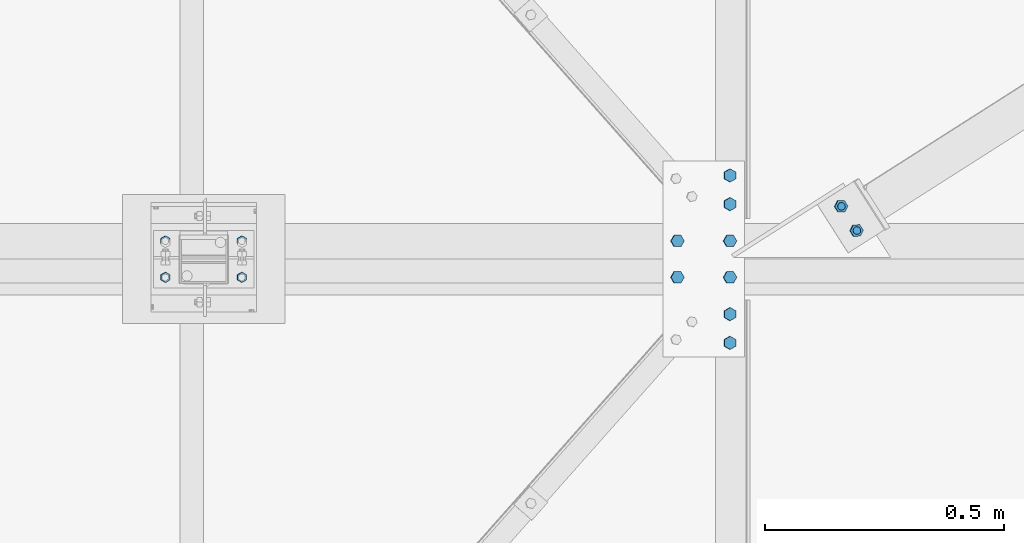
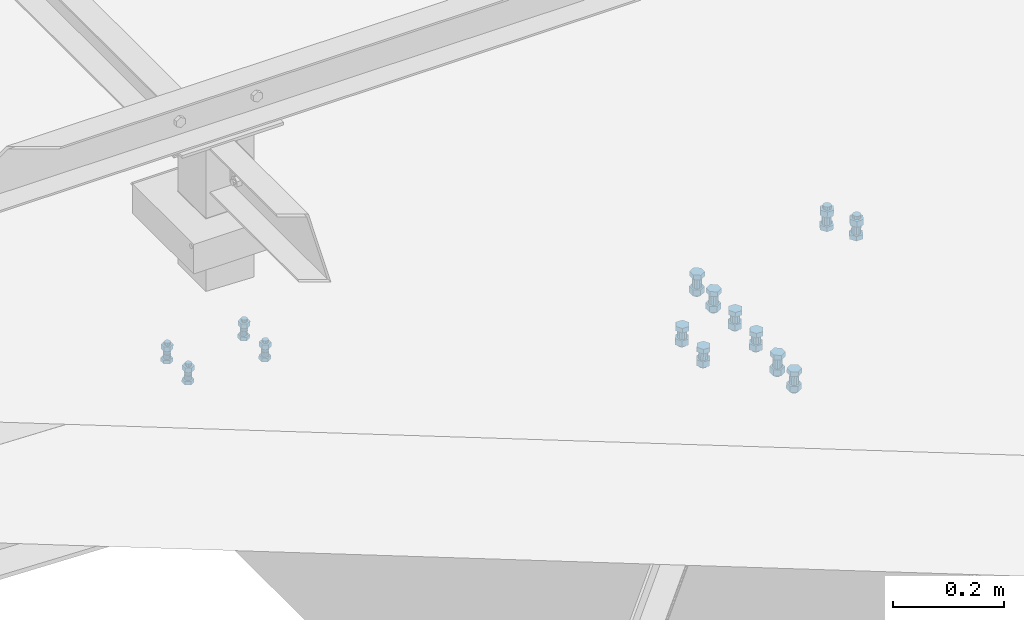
# One storey, part 330 of 3134: 5 mechanical fasteners, 4 elements without a shape of their own.
"""IFC2X3 building model written with IfcOpenShell, lengths in millimetres."""

from ifc_helpers import new_model, si_unit, frame, origin_with_axes, place, context, subcontext, project, spatial, faceted_brep, source, transform, mapped, material, type_object, element, aggregate, save


model = new_model("IFC2X3")

# Units and contexts
model_context = context("Model", 3, precision=1e-05, world=origin_with_axes())
body_context = subcontext(model_context, "Body", "Model", "MODEL_VIEW")
ifc_project = project(units=[si_unit("LENGTHUNIT", "METRE", prefix="MILLI"), si_unit("AREAUNIT", "SQUARE_METRE"), si_unit("VOLUMEUNIT", "CUBIC_METRE"), si_unit("MASSUNIT", "GRAM", prefix="KILO"), si_unit("TIMEUNIT", "SECOND"), si_unit("PLANEANGLEUNIT", "RADIAN"), si_unit("SOLIDANGLEUNIT", "STERADIAN"), si_unit("THERMODYNAMICTEMPERATUREUNIT", "DEGREE_CELSIUS"), si_unit("LUMINOUSINTENSITYUNIT", "LUMEN")], contexts=[model_context])

# Site, building, storey
site_placement = place(None, origin_with_axes())
site = spatial("IfcSite", under=ifc_project, at=site_placement, CompositionType="ELEMENT")
building_placement = place(site_placement, origin_with_axes())
building = spatial("IfcBuilding", under=site, at=building_placement, Name="Undefined", CompositionType="ELEMENT")
storey_placement = place(building_placement, origin_with_axes())
storey = spatial("IfcBuildingStorey", under=building, at=storey_placement, Name="Undefined", CompositionType="ELEMENT", Elevation=0.0)

# Assembly, mechanical fastener
assembly_1_placement = place(storey_placement, origin_with_axes())
assembly_1 = element("IfcElementAssembly", 1, at=assembly_1_placement, inside=storey, Name="300", AssemblyPlace="NOTDEFINED", PredefinedType="RIGID_FRAME")
ifc_material = material(Name="8.8")
mechanical_fastener_type = type_object("IfcMechanicalFastenerType", Name="Bolt assembly")
shared_shape_1 = source(origin_with_axes(), body_context, "Body", "Brep", [
    faceted_brep([(13.856406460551, -23.1999997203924, 0.0), (6.92820323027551, -23.1999997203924, 12.0), (-6.92820323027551, -23.1999997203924, 12.0), (-13.856406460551, -23.1999997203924, 1.69692038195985e-15), (-6.92820323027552, -23.1999997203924, -12.0), (6.9282032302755, -23.1999997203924, -12.0), (6.9282032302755, -13.1999997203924, -12.0), (-6.92820323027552, -13.1999997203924, -12.0), (-13.856406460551, -13.1999997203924, 1.69692038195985e-15), (-6.92820323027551, -13.1999997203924, 12.0), (6.92820323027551, -13.1999997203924, 12.0), (13.856406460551, -13.1999997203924, 0.0), (8.0, -13.1999997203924, 0.0), (6.92820323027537, -13.1999997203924, 4.00000000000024), (3.99999999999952, -13.1999997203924, 6.92820323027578), (-8.29068785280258e-13, -13.1999997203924, 8.0), (-4.00000000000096, -13.1999997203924, 6.92820323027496), (-6.9282032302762, -13.1999997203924, 3.99999999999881), (-8.0, -13.1999997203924, -1.65813757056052e-12), (-6.92820323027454, -13.1999997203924, -4.00000000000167), (-3.99999999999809, -13.1999997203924, -6.92820323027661), (2.47832457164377e-12, -13.1999997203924, -8.0), (4.00000000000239, -13.1999997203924, -6.92820323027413), (6.92820323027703, -13.1999997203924, -3.99999999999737), (6.92820323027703, 21.8000002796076, -3.99999999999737), (4.00000000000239, 21.8000002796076, -6.92820323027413), (2.47832457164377e-12, 21.8000002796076, -8.0), (-3.99999999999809, 21.8000002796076, -6.92820323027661), (-6.92820323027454, 21.8000002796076, -4.00000000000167), (-8.0, 21.8000002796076, -1.65813757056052e-12), (-6.9282032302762, 21.8000002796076, 3.99999999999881), (-4.00000000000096, 21.8000002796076, 6.92820323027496), (-8.29068785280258e-13, 21.8000002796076, 8.0), (3.99999999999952, 21.8000002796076, 6.92820323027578), (6.92820323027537, 21.8000002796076, 4.00000000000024), (8.0, 21.8000002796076, 0.0), (13.856406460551, 3.99999999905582, 0.0), (6.92820323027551, 3.99999999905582, 12.0), (-6.92820323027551, 3.99999999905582, 12.0), (-13.856406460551, 3.99999999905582, 1.69692038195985e-15), (-6.92820323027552, 3.99999999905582, -12.0), (6.9282032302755, 3.99999999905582, -12.0), (6.9282032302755, 16.9999999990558, -12.0), (-6.92820323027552, 16.9999999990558, -12.0), (-13.856406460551, 16.9999999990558, 1.69692038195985e-15), (-6.92820323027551, 16.9999999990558, 12.0), (6.92820323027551, 16.9999999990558, 12.0), (13.856406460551, 16.9999999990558, 0.0)], [[[0, 1, 2, 3, 4, 5]], [[6, 7, 8, 9, 10, 11]], [[0, 11, 10, 1]], [[1, 10, 9, 2]], [[2, 9, 8, 3]], [[3, 8, 7, 4]], [[4, 7, 6, 5]], [[5, 6, 11, 0]], [[12, 13, 14, 15, 16, 17, 18, 19, 20, 21, 22, 23]], [[24, 25, 26, 27, 28, 29, 30, 31, 32, 33, 34, 35]], [[12, 35, 34, 13]], [[13, 34, 33, 14]], [[14, 33, 32, 15]], [[15, 32, 31, 16]], [[16, 31, 30, 17]], [[17, 30, 29, 18]], [[18, 29, 28, 19]], [[19, 28, 27, 20]], [[20, 27, 26, 21]], [[21, 26, 25, 22]], [[22, 25, 24, 23]], [[23, 24, 35, 12]], [[36, 37, 38, 39, 40, 41]], [[42, 43, 44, 45, 46, 47]], [[36, 47, 46, 37]], [[37, 46, 45, 38]], [[38, 45, 44, 39]], [[39, 44, 43, 40]], [[40, 43, 42, 41]], [[41, 42, 47, 36]]]),
    faceted_brep([(9.0, -4.10000000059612, 0.0), (7.79422863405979, -4.10000000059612, 4.50000000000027), (4.49999999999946, -4.10000000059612, 7.79422863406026), (-9.3270238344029e-13, -4.10000000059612, 9.0), (-4.50000000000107, -4.10000000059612, 7.79422863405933), (-7.79422863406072, -4.10000000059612, 4.49999999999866), (-9.0, -4.10000000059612, -1.86540476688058e-12), (-7.79422863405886, -4.10000000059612, -4.50000000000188), (-4.49999999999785, -4.10000000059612, -7.79422863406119), (2.78811514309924e-12, -4.10000000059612, -9.0), (4.50000000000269, -4.10000000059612, -7.7942286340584), (7.79422863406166, -4.10000000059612, -4.49999999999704), (7.79422863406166, 4.00000375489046, -4.49999999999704), (4.50000000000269, 4.00000375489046, -7.7942286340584), (2.78811514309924e-12, 4.00000375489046, -9.0), (-4.49999999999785, 4.00000375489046, -7.79422863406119), (-7.79422863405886, 4.00000375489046, -4.50000000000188), (-9.0, 4.00000375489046, -1.86540476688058e-12), (-7.79422863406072, 4.00000375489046, 4.49999999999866), (-4.50000000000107, 4.00000375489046, 7.79422863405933), (-9.3270238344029e-13, 4.00000375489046, 9.0), (4.49999999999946, 4.00000375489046, 7.79422863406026), (7.79422863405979, 4.00000375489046, 4.50000000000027), (9.0, 4.00000375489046, 0.0), (9.0, -13.0999997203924, 0.0), (7.79422863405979, -13.0999997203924, 4.50000000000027), (4.49999999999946, -13.0999997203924, 7.79422863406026), (-9.3270238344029e-13, -13.0999997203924, 9.0), (-4.50000000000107, -13.0999997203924, 7.79422863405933), (-7.79422863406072, -13.0999997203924, 4.49999999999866), (-9.0, -13.0999997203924, -1.86540476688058e-12), (-7.79422863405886, -13.0999997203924, -4.50000000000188), (-4.49999999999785, -13.0999997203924, -7.79422863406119), (2.78811514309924e-12, -13.0999997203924, -9.0), (4.50000000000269, -13.0999997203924, -7.7942286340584), (7.79422863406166, -13.0999997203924, -4.49999999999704), (7.79422863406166, -3.9, -4.49999999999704), (4.50000000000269, -3.9, -7.7942286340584), (2.78811514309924e-12, -3.9, -9.0), (-4.49999999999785, -3.9, -7.79422863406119), (-7.79422863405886, -3.9, -4.50000000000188), (-9.0, -3.9, -1.86540476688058e-12), (-7.79422863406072, -3.9, 4.49999999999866), (-4.50000000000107, -3.9, 7.79422863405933), (-9.3270238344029e-13, -3.9, 9.0), (4.49999999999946, -3.9, 7.79422863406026), (7.79422863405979, -3.9, 4.50000000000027), (9.0, -3.9, 0.0)], [[[0, 1, 2, 3, 4, 5, 6, 7, 8, 9, 10, 11]], [[12, 13, 14, 15, 16, 17, 18, 19, 20, 21, 22, 23]], [[0, 23, 22, 1]], [[1, 22, 21, 2]], [[2, 21, 20, 3]], [[3, 20, 19, 4]], [[4, 19, 18, 5]], [[5, 18, 17, 6]], [[6, 17, 16, 7]], [[7, 16, 15, 8]], [[8, 15, 14, 9]], [[9, 14, 13, 10]], [[10, 13, 12, 11]], [[11, 12, 23, 0]], [[24, 25, 26, 27, 28, 29, 30, 31, 32, 33, 34, 35]], [[36, 37, 38, 39, 40, 41, 42, 43, 44, 45, 46, 47]], [[24, 47, 46, 25]], [[25, 46, 45, 26]], [[26, 45, 44, 27]], [[27, 44, 43, 28]], [[28, 43, 42, 29]], [[29, 42, 41, 30]], [[30, 41, 40, 31]], [[31, 40, 39, 32]], [[32, 39, 38, 33]], [[33, 38, 37, 34]], [[34, 37, 36, 35]], [[35, 36, 47, 24]]]),
])
mechanical_fastener_1_placement = place(assembly_1_placement, frame((71700.0552172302, 10009.9999999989, 5010.20374992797), z_axis=(0.0, -1.0, 0.0), x_axis=(-0.999519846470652, 0.0, 0.0309851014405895)))
mechanical_fastener_1 = element("IfcMechanicalFastener", 2, at=mechanical_fastener_1_placement, type_object=mechanical_fastener_type, material=ifc_material, Name="Bolt assembly", NominalDiameter=16.0, NominalLength=35.0, context=body_context, shape_type="MappedRepresentation", body=[
    mapped(shared_shape_1, transform((0.0, 0.0, -38.0))),
    mapped(shared_shape_1, transform((110.000000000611, 4.58385329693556e-10, -38.0))),
    mapped(shared_shape_1, transform((0.0, 0.0, 38.0))),
    mapped(shared_shape_1, transform((110.000000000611, 4.58385329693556e-10, 38.0))),
])

assembly_2_placement = place(storey_placement, origin_with_axes())
assembly_2 = element("IfcElementAssembly", 3, at=assembly_2_placement, inside=storey, AssemblyPlace="NOTDEFINED", PredefinedType="RIGID_FRAME")
shared_shape_2 = source(origin_with_axes(), body_context, "Body", "Brep", [
    faceted_brep([(13.856406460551, -15.0000144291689, 0.0), (6.92820323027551, -15.0000144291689, 12.0), (-6.92820323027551, -15.0000144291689, 12.0), (-13.856406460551, -15.0000144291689, 1.69692038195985e-15), (-6.92820323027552, -15.0000144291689, -12.0), (6.9282032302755, -15.0000144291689, -12.0), (6.9282032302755, -5.00001442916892, -12.0), (-6.92820323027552, -5.00001442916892, -12.0), (-13.856406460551, -5.00001442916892, 1.69692038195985e-15), (-6.92820323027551, -5.00001442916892, 12.0), (6.92820323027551, -5.00001442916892, 12.0), (13.856406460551, -5.00001442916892, 0.0), (8.0, -5.00001442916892, 0.0), (6.92820323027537, -5.00001442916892, 4.00000000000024), (3.99999999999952, -5.00001442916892, 6.92820323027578), (-8.29068785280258e-13, -5.00001442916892, 8.0), (-4.00000000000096, -5.00001442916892, 6.92820323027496), (-6.9282032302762, -5.00001442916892, 3.99999999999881), (-8.0, -5.00001442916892, -1.65813757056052e-12), (-6.92820323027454, -5.00001442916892, -4.00000000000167), (-3.99999999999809, -5.00001442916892, -6.92820323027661), (2.47832457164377e-12, -5.00001442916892, -8.0), (4.00000000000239, -5.00001442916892, -6.92820323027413), (6.92820323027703, -5.00001442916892, -3.99999999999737), (6.92820323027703, 35.0000000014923, -3.99999999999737), (4.00000000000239, 35.0000000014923, -6.92820323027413), (2.47832457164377e-12, 35.0000000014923, -8.0), (-3.99999999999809, 35.0000000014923, -6.92820323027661), (-6.92820323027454, 35.0000000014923, -4.00000000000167), (-8.0, 35.0000000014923, -1.65813757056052e-12), (-6.9282032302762, 35.0000000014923, 3.99999999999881), (-4.00000000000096, 35.0000000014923, 6.92820323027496), (-8.29068785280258e-13, 35.0000000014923, 8.0), (3.99999999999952, 35.0000000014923, 6.92820323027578), (6.92820323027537, 35.0000000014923, 4.00000000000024), (8.0, 35.0000000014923, 0.0), (13.856406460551, 14.9999995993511, 0.0), (6.92820323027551, 14.9999995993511, 12.0), (-6.92820323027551, 14.9999995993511, 12.0), (-13.856406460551, 14.9999995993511, 1.69692038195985e-15), (-6.92820323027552, 14.9999995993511, -12.0), (6.9282032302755, 14.9999995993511, -12.0), (6.9282032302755, 27.9999995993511, -12.0), (-6.92820323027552, 27.9999995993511, -12.0), (-13.856406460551, 27.9999995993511, 1.69692038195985e-15), (-6.92820323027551, 27.9999995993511, 12.0), (6.92820323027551, 27.9999995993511, 12.0), (13.856406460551, 27.9999995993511, 0.0)], [[[0, 1, 2, 3, 4, 5]], [[6, 7, 8, 9, 10, 11]], [[0, 11, 10, 1]], [[1, 10, 9, 2]], [[2, 9, 8, 3]], [[3, 8, 7, 4]], [[4, 7, 6, 5]], [[5, 6, 11, 0]], [[12, 13, 14, 15, 16, 17, 18, 19, 20, 21, 22, 23]], [[24, 25, 26, 27, 28, 29, 30, 31, 32, 33, 34, 35]], [[12, 35, 34, 13]], [[13, 34, 33, 14]], [[14, 33, 32, 15]], [[15, 32, 31, 16]], [[16, 31, 30, 17]], [[17, 30, 29, 18]], [[18, 29, 28, 19]], [[19, 28, 27, 20]], [[20, 27, 26, 21]], [[21, 26, 25, 22]], [[22, 25, 24, 23]], [[23, 24, 35, 12]], [[36, 37, 38, 39, 40, 41]], [[42, 43, 44, 45, 46, 47]], [[36, 47, 46, 37]], [[37, 46, 45, 38]], [[38, 45, 44, 39]], [[39, 44, 43, 40]], [[40, 43, 42, 41]], [[41, 42, 47, 36]]]),
    faceted_brep([(9.0, -4.90001442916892, 0.0), (7.79422863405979, -4.90001442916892, 4.50000000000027), (4.49999999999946, -4.90001442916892, 7.79422863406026), (-9.3270238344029e-13, -4.90001442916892, 9.0), (-4.50000000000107, -4.90001442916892, 7.79422863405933), (-7.79422863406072, -4.90001442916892, 4.49999999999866), (-9.0, -4.90001442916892, -1.86540476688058e-12), (-7.79422863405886, -4.90001442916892, -4.50000000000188), (-4.49999999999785, -4.90001442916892, -7.79422863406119), (2.78811514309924e-12, -4.90001442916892, -9.0), (4.50000000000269, -4.90001442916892, -7.7942286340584), (7.79422863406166, -4.90001442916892, -4.49999999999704), (7.79422863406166, 5.10000199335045, -4.49999999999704), (4.50000000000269, 5.10000199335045, -7.7942286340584), (2.78811514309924e-12, 5.10000199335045, -9.0), (-4.49999999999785, 5.10000199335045, -7.79422863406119), (-7.79422863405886, 5.10000199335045, -4.50000000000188), (-9.0, 5.10000199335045, -1.86540476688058e-12), (-7.79422863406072, 5.10000199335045, 4.49999999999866), (-4.50000000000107, 5.10000199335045, 7.79422863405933), (-9.3270238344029e-13, 5.10000199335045, 9.0), (4.49999999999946, 5.10000199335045, 7.79422863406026), (7.79422863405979, 5.10000199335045, 4.50000000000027), (9.0, 5.10000199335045, 0.0), (9.0, 4.90000583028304, 0.0), (7.79422863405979, 4.90000583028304, 4.50000000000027), (4.49999999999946, 4.90000583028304, 7.79422863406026), (-9.3270238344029e-13, 4.90000583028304, 9.0), (-4.50000000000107, 4.90000583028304, 7.79422863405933), (-7.79422863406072, 4.90000583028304, 4.49999999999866), (-9.0, 4.90000583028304, -1.86540476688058e-12), (-7.79422863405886, 4.90000583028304, -4.50000000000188), (-4.49999999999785, 4.90000583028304, -7.79422863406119), (2.78811514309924e-12, 4.90000583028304, -9.0), (4.50000000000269, 4.90000583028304, -7.7942286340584), (7.79422863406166, 4.90000583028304, -4.49999999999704), (7.79422863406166, 14.9999995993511, -4.49999999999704), (4.50000000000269, 14.9999995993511, -7.7942286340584), (2.78811514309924e-12, 14.9999995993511, -9.0), (-4.49999999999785, 14.9999995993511, -7.79422863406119), (-7.79422863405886, 14.9999995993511, -4.50000000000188), (-9.0, 14.9999995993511, -1.86540476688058e-12), (-7.79422863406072, 14.9999995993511, 4.49999999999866), (-4.50000000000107, 14.9999995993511, 7.79422863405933), (-9.3270238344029e-13, 14.9999995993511, 9.0), (4.49999999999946, 14.9999995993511, 7.79422863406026), (7.79422863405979, 14.9999995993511, 4.50000000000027), (9.0, 14.9999995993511, 0.0)], [[[0, 1, 2, 3, 4, 5, 6, 7, 8, 9, 10, 11]], [[12, 13, 14, 15, 16, 17, 18, 19, 20, 21, 22, 23]], [[0, 23, 22, 1]], [[1, 22, 21, 2]], [[2, 21, 20, 3]], [[3, 20, 19, 4]], [[4, 19, 18, 5]], [[5, 18, 17, 6]], [[6, 17, 16, 7]], [[7, 16, 15, 8]], [[8, 15, 14, 9]], [[9, 14, 13, 10]], [[10, 13, 12, 11]], [[11, 12, 23, 0]], [[24, 25, 26, 27, 28, 29, 30, 31, 32, 33, 34, 35]], [[36, 37, 38, 39, 40, 41, 42, 43, 44, 45, 46, 47]], [[24, 47, 46, 25]], [[25, 46, 45, 26]], [[26, 45, 44, 27]], [[27, 44, 43, 28]], [[28, 43, 42, 29]], [[29, 42, 41, 30]], [[30, 41, 40, 31]], [[31, 40, 39, 32]], [[32, 39, 38, 33]], [[33, 38, 37, 34]], [[34, 37, 36, 35]], [[35, 36, 47, 24]]]),
])
mechanical_fastener_2_placement = place(assembly_2_placement, frame((71932.2409908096, 10120.4448838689, 5100.55288787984), z_axis=(-0.843130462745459, -0.537073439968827, 0.0261370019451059), x_axis=(0.536815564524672, -0.84353548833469, -0.0166412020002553)))
mechanical_fastener_2 = element("IfcMechanicalFastener", 4, at=mechanical_fastener_2_placement, type_object=mechanical_fastener_type, material=ifc_material, Name="Bolt assembly", NominalDiameter=16.0, NominalLength=40.0, context=body_context, shape_type="MappedRepresentation", body=[
    mapped(shared_shape_2, transform((0.0, 0.0, 0.0))),
    mapped(shared_shape_2, transform((59.9999999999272, 0.0, 5.40239852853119e-10))),
])
aggregate(assembly_2, [mechanical_fastener_2])

# Mechanical fastener
shared_shape_3 = source(origin_with_axes(), body_context, "Body", "Brep", [
    faceted_brep([(10.9696551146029, -10.1955642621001, 0.0), (5.48482755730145, -10.1955642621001, 9.5), (-5.48482755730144, -10.1955642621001, 9.5), (-10.9696551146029, -10.1955642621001, 1.34339530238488e-15), (-5.48482755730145, -10.1955642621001, -9.5), (5.48482755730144, -10.1955642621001, -9.50000000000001), (5.48482755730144, -2.19556426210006, -9.50000000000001), (-5.48482755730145, -2.19556426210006, -9.5), (-10.9696551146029, -2.19556426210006, 1.34339530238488e-15), (-5.48482755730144, -2.19556426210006, 9.5), (5.48482755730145, -2.19556426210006, 9.5), (10.9696551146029, -2.19556426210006, 0.0), (6.0, -2.19556426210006, 0.0), (5.19615242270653, -2.19556426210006, 3.00000000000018), (2.99999999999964, -2.19556426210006, 5.19615242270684), (-6.21801588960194e-13, -2.19556426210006, 6.0), (-3.00000000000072, -2.19556426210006, 5.19615242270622), (-5.19615242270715, -2.19556426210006, 2.9999999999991), (-6.0, -2.19556426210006, -1.24360317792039e-12), (-5.19615242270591, -2.19556426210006, -3.00000000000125), (-2.99999999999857, -2.19556426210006, -5.19615242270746), (1.85874342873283e-12, -2.19556426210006, -6.0), (3.00000000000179, -2.19556426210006, -5.1961524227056), (5.19615242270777, -2.19556426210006, -2.99999999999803), (5.19615242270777, 32.8044357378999, -2.99999999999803), (3.00000000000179, 32.8044357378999, -5.1961524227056), (1.85874342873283e-12, 32.8044357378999, -6.0), (-2.99999999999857, 32.8044357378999, -5.19615242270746), (-5.19615242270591, 32.8044357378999, -3.00000000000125), (-6.0, 32.8044357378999, -1.24360317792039e-12), (-5.19615242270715, 32.8044357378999, 2.9999999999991), (-3.00000000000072, 32.8044357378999, 5.19615242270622), (-6.21801588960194e-13, 32.8044357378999, 6.0), (2.99999999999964, 32.8044357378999, 5.19615242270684), (5.19615242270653, 32.8044357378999, 3.00000000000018), (6.0, 32.8044357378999, 0.0), (10.9696551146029, 17.0008987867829, 0.0), (5.48482755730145, 17.0008987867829, 9.5), (-5.48482755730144, 17.0008987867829, 9.5), (-10.9696551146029, 17.0008987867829, 1.34339530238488e-15), (-5.48482755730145, 17.0008987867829, -9.5), (5.48482755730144, 17.0008987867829, -9.50000000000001), (5.48482755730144, 27.0008987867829, -9.50000000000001), (-5.48482755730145, 27.0008987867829, -9.5), (-10.9696551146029, 27.0008987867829, 1.34339530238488e-15), (-5.48482755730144, 27.0008987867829, 9.5), (5.48482755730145, 27.0008987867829, 9.5), (10.9696551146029, 27.0008987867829, 0.0)], [[[0, 1, 2, 3, 4, 5]], [[6, 7, 8, 9, 10, 11]], [[0, 11, 10, 1]], [[1, 10, 9, 2]], [[2, 9, 8, 3]], [[3, 8, 7, 4]], [[4, 7, 6, 5]], [[5, 6, 11, 0]], [[12, 13, 14, 15, 16, 17, 18, 19, 20, 21, 22, 23]], [[24, 25, 26, 27, 28, 29, 30, 31, 32, 33, 34, 35]], [[12, 35, 34, 13]], [[13, 34, 33, 14]], [[14, 33, 32, 15]], [[15, 32, 31, 16]], [[16, 31, 30, 17]], [[17, 30, 29, 18]], [[18, 29, 28, 19]], [[19, 28, 27, 20]], [[20, 27, 26, 21]], [[21, 26, 25, 22]], [[22, 25, 24, 23]], [[23, 24, 35, 12]], [[36, 37, 38, 39, 40, 41]], [[42, 43, 44, 45, 46, 47]], [[36, 47, 46, 37]], [[37, 46, 45, 38]], [[38, 45, 44, 39]], [[39, 44, 43, 40]], [[40, 43, 42, 41]], [[41, 42, 47, 36]]]),
    faceted_brep([(7.0, 8.90089878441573, 0.0), (6.06217782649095, 8.90089878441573, 3.50000000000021), (3.49999999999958, 8.90089878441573, 6.06217782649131), (-7.25435187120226e-13, 8.90089878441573, 7.0), (-3.50000000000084, 8.90089878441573, 6.06217782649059), (-6.06217782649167, 8.90089878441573, 3.49999999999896), (-7.0, 8.90089878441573, -1.45087037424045e-12), (-6.06217782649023, 8.90089878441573, -3.50000000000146), (-3.49999999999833, 8.90089878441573, -6.06217782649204), (2.1685340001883e-12, 8.90089878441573, -7.0), (3.50000000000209, 8.90089878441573, -6.06217782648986), (6.0621778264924, 8.90089878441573, -3.4999999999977), (6.0621778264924, 17.0008987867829, -3.4999999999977), (3.50000000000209, 17.0008987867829, -6.06217782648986), (2.1685340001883e-12, 17.0008987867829, -7.0), (-3.49999999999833, 17.0008987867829, -6.06217782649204), (-6.06217782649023, 17.0008987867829, -3.50000000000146), (-7.0, 17.0008987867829, -1.45087037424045e-12), (-6.06217782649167, 17.0008987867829, 3.49999999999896), (-3.50000000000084, 17.0008987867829, 6.06217782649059), (-7.25435187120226e-13, 17.0008987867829, 7.0), (3.49999999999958, 17.0008987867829, 6.06217782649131), (6.06217782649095, 17.0008987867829, 3.50000000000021), (7.0, 17.0008987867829, 0.0), (7.0, -2.09556426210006, 0.0), (6.06217782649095, -2.09556426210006, 3.50000000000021), (3.49999999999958, -2.09556426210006, 6.06217782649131), (-7.25435187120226e-13, -2.09556426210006, 7.0), (-3.50000000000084, -2.09556426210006, 6.06217782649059), (-6.06217782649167, -2.09556426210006, 3.49999999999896), (-7.0, -2.09556426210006, -1.45087037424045e-12), (-6.06217782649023, -2.09556426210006, -3.50000000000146), (-3.49999999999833, -2.09556426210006, -6.06217782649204), (2.1685340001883e-12, -2.09556426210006, -7.0), (3.50000000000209, -2.09556426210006, -6.06217782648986), (6.0621778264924, -2.09556426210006, -3.4999999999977), (6.0621778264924, 7.10443554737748, -3.4999999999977), (3.50000000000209, 7.10443554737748, -6.06217782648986), (2.1685340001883e-12, 7.10443554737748, -7.0), (-3.49999999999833, 7.10443554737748, -6.06217782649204), (-6.06217782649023, 7.10443554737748, -3.50000000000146), (-7.0, 7.10443554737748, -1.45087037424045e-12), (-6.06217782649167, 7.10443554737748, 3.49999999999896), (-3.50000000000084, 7.10443554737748, 6.06217782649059), (-7.25435187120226e-13, 7.10443554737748, 7.0), (3.49999999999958, 7.10443554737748, 6.06217782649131), (6.06217782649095, 7.10443554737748, 3.50000000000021), (7.0, 7.10443554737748, 0.0)], [[[0, 1, 2, 3, 4, 5, 6, 7, 8, 9, 10, 11]], [[12, 13, 14, 15, 16, 17, 18, 19, 20, 21, 22, 23]], [[0, 23, 22, 1]], [[1, 22, 21, 2]], [[2, 21, 20, 3]], [[3, 20, 19, 4]], [[4, 19, 18, 5]], [[5, 18, 17, 6]], [[6, 17, 16, 7]], [[7, 16, 15, 8]], [[8, 15, 14, 9]], [[9, 14, 13, 10]], [[10, 13, 12, 11]], [[11, 12, 23, 0]], [[24, 25, 26, 27, 28, 29, 30, 31, 32, 33, 34, 35]], [[36, 37, 38, 39, 40, 41, 42, 43, 44, 45, 46, 47]], [[24, 47, 46, 25]], [[25, 46, 45, 26]], [[26, 45, 44, 27]], [[27, 44, 43, 28]], [[28, 43, 42, 29]], [[29, 42, 41, 30]], [[30, 41, 40, 31]], [[31, 40, 39, 32]], [[32, 39, 38, 33]], [[33, 38, 37, 34]], [[34, 37, 36, 35]], [[35, 36, 47, 24]]]),
])
mechanical_fastener_3_placement = place(assembly_1_placement, frame((70599.5351187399, 10048.0, 5338.4572055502), z_axis=(-0.99951962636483, 0.0, 0.0309922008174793), x_axis=(0.0, -1.0, 0.0)))
mechanical_fastener_3 = element("IfcMechanicalFastener", 5, at=mechanical_fastener_3_placement, type_object=mechanical_fastener_type, material=ifc_material, Name="Bolt assembly", NominalDiameter=12.0, NominalLength=35.0, context=body_context, shape_type="MappedRepresentation", body=[
    mapped(shared_shape_3, transform((0.0, -5.32963895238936e-10, -79.9999999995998))),
    mapped(shared_shape_3, transform((76.0, -5.32963895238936e-10, -79.9999999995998))),
    mapped(shared_shape_3, transform((0.0, 5.3114490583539e-10, 79.9999999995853))),
    mapped(shared_shape_3, transform((76.0, 5.3114490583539e-10, 79.9999999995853))),
])

aggregate(assembly_1, [mechanical_fastener_3, mechanical_fastener_1])

# Assembly, mechanical fastener
assembly_3_placement = place(storey_placement, origin_with_axes())
assembly_3 = element("IfcElementAssembly", 6, at=assembly_3_placement, inside=storey, AssemblyPlace="NOTDEFINED", PredefinedType="RIGID_FRAME")
shared_shape_4 = source(origin_with_axes(), body_context, "Body", "Brep", [
    faceted_brep([(13.856406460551, -21.0000017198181, 0.0), (6.92820323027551, -21.0000017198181, 12.0), (-6.92820323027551, -21.0000017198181, 12.0), (-13.856406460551, -21.0000017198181, 1.69692038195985e-15), (-6.92820323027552, -21.0000017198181, -12.0), (6.9282032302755, -21.0000017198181, -12.0), (6.9282032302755, -11.0000017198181, -12.0), (-6.92820323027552, -11.0000017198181, -12.0), (-13.856406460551, -11.0000017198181, 1.69692038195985e-15), (-6.92820323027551, -11.0000017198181, 12.0), (6.92820323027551, -11.0000017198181, 12.0), (13.856406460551, -11.0000017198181, 0.0), (8.0, -11.0000017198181, 0.0), (6.92820323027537, -11.0000017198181, 4.00000000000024), (3.99999999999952, -11.0000017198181, 6.92820323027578), (-8.29068785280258e-13, -11.0000017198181, 8.0), (-4.00000000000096, -11.0000017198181, 6.92820323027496), (-6.9282032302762, -11.0000017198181, 3.99999999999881), (-8.0, -11.0000017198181, -1.65813757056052e-12), (-6.92820323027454, -11.0000017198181, -4.00000000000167), (-3.99999999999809, -11.0000017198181, -6.92820323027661), (2.47832457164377e-12, -11.0000017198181, -8.0), (4.00000000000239, -11.0000017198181, -6.92820323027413), (6.92820323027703, -11.0000017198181, -3.99999999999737), (6.92820323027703, 29.0, -3.99999999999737), (4.00000000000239, 29.0, -6.92820323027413), (2.47832457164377e-12, 29.0, -8.0), (-3.99999999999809, 29.0, -6.92820323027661), (-6.92820323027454, 29.0, -4.00000000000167), (-8.0, 29.0, -1.65813757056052e-12), (-6.9282032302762, 29.0, 3.99999999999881), (-4.00000000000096, 29.0, 6.92820323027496), (-8.29068785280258e-13, 29.0, 8.0), (3.99999999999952, 29.0, 6.92820323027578), (6.92820323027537, 29.0, 4.00000000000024), (8.0, 29.0, 0.0), (13.856406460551, 10.9979999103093, 0.0), (6.92820323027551, 10.9979999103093, 12.0), (-6.92820323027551, 10.9979999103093, 12.0), (-13.856406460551, 10.9979999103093, 1.69692038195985e-15), (-6.92820323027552, 10.9979999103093, -12.0), (6.9282032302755, 10.9979999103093, -12.0), (6.9282032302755, 23.9979999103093, -12.0), (-6.92820323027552, 23.9979999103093, -12.0), (-13.856406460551, 23.9979999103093, 1.69692038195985e-15), (-6.92820323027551, 23.9979999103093, 12.0), (6.92820323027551, 23.9979999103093, 12.0), (13.856406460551, 23.9979999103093, 0.0)], [[[0, 1, 2, 3, 4, 5]], [[6, 7, 8, 9, 10, 11]], [[0, 11, 10, 1]], [[1, 10, 9, 2]], [[2, 9, 8, 3]], [[3, 8, 7, 4]], [[4, 7, 6, 5]], [[5, 6, 11, 0]], [[12, 13, 14, 15, 16, 17, 18, 19, 20, 21, 22, 23]], [[24, 25, 26, 27, 28, 29, 30, 31, 32, 33, 34, 35]], [[12, 35, 34, 13]], [[13, 34, 33, 14]], [[14, 33, 32, 15]], [[15, 32, 31, 16]], [[16, 31, 30, 17]], [[17, 30, 29, 18]], [[18, 29, 28, 19]], [[19, 28, 27, 20]], [[20, 27, 26, 21]], [[21, 26, 25, 22]], [[22, 25, 24, 23]], [[23, 24, 35, 12]], [[36, 37, 38, 39, 40, 41]], [[42, 43, 44, 45, 46, 47]], [[36, 47, 46, 37]], [[37, 46, 45, 38]], [[38, 45, 44, 39]], [[39, 44, 43, 40]], [[40, 43, 42, 41]], [[41, 42, 47, 36]]]),
    faceted_brep([(9.0, -10.9000017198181, 0.0), (7.79422863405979, -10.9000017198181, 4.50000000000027), (4.49999999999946, -10.9000017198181, 7.79422863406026), (-9.3270238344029e-13, -10.9000017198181, 9.0), (-4.50000000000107, -10.9000017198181, 7.79422863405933), (-7.79422863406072, -10.9000017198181, 4.49999999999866), (-9.0, -10.9000017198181, -1.86540476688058e-12), (-7.79422863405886, -10.9000017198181, -4.50000000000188), (-4.49999999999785, -10.9000017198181, -7.79422863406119), (2.78811514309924e-12, -10.9000017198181, -9.0), (4.50000000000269, -10.9000017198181, -7.7942286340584), (7.79422863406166, -10.9000017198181, -4.49999999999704), (7.79422863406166, -3.9, -4.49999999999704), (4.50000000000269, -3.9, -7.7942286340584), (2.78811514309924e-12, -3.9, -9.0), (-4.49999999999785, -3.9, -7.79422863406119), (-7.79422863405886, -3.9, -4.50000000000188), (-9.0, -3.9, -1.86540476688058e-12), (-7.79422863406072, -3.9, 4.49999999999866), (-4.50000000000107, -3.9, 7.79422863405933), (-9.3270238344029e-13, -3.9, 9.0), (4.49999999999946, -3.9, 7.79422863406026), (7.79422863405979, -3.9, 4.50000000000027), (9.0, -3.9, 0.0), (9.0, 3.89799991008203, 0.0), (7.79422863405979, 3.89799991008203, 4.50000000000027), (4.49999999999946, 3.89799991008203, 7.79422863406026), (-9.3270238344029e-13, 3.89799991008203, 9.0), (-4.50000000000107, 3.89799991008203, 7.79422863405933), (-7.79422863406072, 3.89799991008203, 4.49999999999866), (-9.0, 3.89799991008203, -1.86540476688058e-12), (-7.79422863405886, 3.89799991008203, -4.50000000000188), (-4.49999999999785, 3.89799991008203, -7.79422863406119), (2.78811514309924e-12, 3.89799991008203, -9.0), (4.50000000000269, 3.89799991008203, -7.7942286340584), (7.79422863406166, 3.89799991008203, -4.49999999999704), (7.79422863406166, 10.9979999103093, -4.49999999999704), (4.50000000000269, 10.9979999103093, -7.7942286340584), (2.78811514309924e-12, 10.9979999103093, -9.0), (-4.49999999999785, 10.9979999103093, -7.79422863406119), (-7.79422863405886, 10.9979999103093, -4.50000000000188), (-9.0, 10.9979999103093, -1.86540476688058e-12), (-7.79422863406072, 10.9979999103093, 4.49999999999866), (-4.50000000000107, 10.9979999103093, 7.79422863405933), (-9.3270238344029e-13, 10.9979999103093, 9.0), (4.49999999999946, 10.9979999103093, 7.79422863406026), (7.79422863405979, 10.9979999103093, 4.50000000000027), (9.0, 10.9979999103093, 0.0), (9.0, -3.99999624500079, 0.0), (7.79422863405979, -3.99999624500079, 4.50000000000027), (4.49999999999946, -3.99999624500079, 7.79422863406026), (-9.3270238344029e-13, -3.99999624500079, 9.0), (-4.50000000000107, -3.99999624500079, 7.79422863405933), (-7.79422863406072, -3.99999624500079, 4.49999999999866), (-9.0, -3.99999624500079, -1.86540476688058e-12), (-7.79422863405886, -3.99999624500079, -4.50000000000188), (-4.49999999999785, -3.99999624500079, -7.79422863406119), (2.78811514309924e-12, -3.99999624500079, -9.0), (4.50000000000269, -3.99999624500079, -7.7942286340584), (7.79422863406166, -3.99999624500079, -4.49999999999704), (7.79422863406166, 4.00000375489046, -4.49999999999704), (4.50000000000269, 4.00000375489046, -7.7942286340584), (2.78811514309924e-12, 4.00000375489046, -9.0), (-4.49999999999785, 4.00000375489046, -7.79422863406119), (-7.79422863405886, 4.00000375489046, -4.50000000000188), (-9.0, 4.00000375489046, -1.86540476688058e-12), (-7.79422863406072, 4.00000375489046, 4.49999999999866), (-4.50000000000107, 4.00000375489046, 7.79422863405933), (-9.3270238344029e-13, 4.00000375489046, 9.0), (4.49999999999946, 4.00000375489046, 7.79422863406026), (7.79422863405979, 4.00000375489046, 4.50000000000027), (9.0, 4.00000375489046, 0.0)], [[[0, 1, 2, 3, 4, 5, 6, 7, 8, 9, 10, 11]], [[12, 13, 14, 15, 16, 17, 18, 19, 20, 21, 22, 23]], [[0, 23, 22, 1]], [[1, 22, 21, 2]], [[2, 21, 20, 3]], [[3, 20, 19, 4]], [[4, 19, 18, 5]], [[5, 18, 17, 6]], [[6, 17, 16, 7]], [[7, 16, 15, 8]], [[8, 15, 14, 9]], [[9, 14, 13, 10]], [[10, 13, 12, 11]], [[11, 12, 23, 0]], [[24, 25, 26, 27, 28, 29, 30, 31, 32, 33, 34, 35]], [[36, 37, 38, 39, 40, 41, 42, 43, 44, 45, 46, 47]], [[24, 47, 46, 25]], [[25, 46, 45, 26]], [[26, 45, 44, 27]], [[27, 44, 43, 28]], [[28, 43, 42, 29]], [[29, 42, 41, 30]], [[30, 41, 40, 31]], [[31, 40, 39, 32]], [[32, 39, 38, 33]], [[33, 38, 37, 34]], [[34, 37, 36, 35]], [[35, 36, 47, 24]], [[48, 49, 50, 51, 52, 53, 54, 55, 56, 57, 58, 59]], [[60, 61, 62, 63, 64, 65, 66, 67, 68, 69, 70, 71]], [[48, 71, 70, 49]], [[49, 70, 69, 50]], [[50, 69, 68, 51]], [[51, 68, 67, 52]], [[52, 67, 66, 53]], [[53, 66, 65, 54]], [[54, 65, 64, 55]], [[55, 64, 63, 56]], [[56, 63, 62, 57]], [[57, 62, 61, 58]], [[58, 61, 60, 59]], [[59, 60, 71, 48]]]),
])
mechanical_fastener_4_placement = place(assembly_3_placement, frame((71700.0552170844, 10124.9999999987, 5010.20374993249), z_axis=(-0.999519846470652, 0.0, 0.0309851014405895), x_axis=(0.0, 1.0, 0.0)))
mechanical_fastener_4 = element("IfcMechanicalFastener", 7, at=mechanical_fastener_4_placement, type_object=mechanical_fastener_type, material=ifc_material, Name="Bolt assembly", NominalDiameter=16.0, NominalLength=40.0, context=body_context, shape_type="MappedRepresentation", body=[
    mapped(shared_shape_4, transform((0.0, 0.0, 0.0))),
    mapped(shared_shape_4, transform((59.9999999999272, 0.0, 5.40239852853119e-10))),
])
aggregate(assembly_3, [mechanical_fastener_4])

assembly_4_placement = place(storey_placement, origin_with_axes())
assembly_4 = element("IfcElementAssembly", 8, at=assembly_4_placement, inside=storey, AssemblyPlace="NOTDEFINED", PredefinedType="RIGID_FRAME")
mechanical_fastener_5_placement = place(assembly_4_placement, frame((71700.0552170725, 9894.99999999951, 5010.20374993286), z_axis=(0.999519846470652, 0.0, -0.0309851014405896), x_axis=(0.0, -1.0, 0.0)))
mechanical_fastener_5 = element("IfcMechanicalFastener", 9, at=mechanical_fastener_5_placement, type_object=mechanical_fastener_type, material=ifc_material, Name="Bolt assembly", NominalDiameter=16.0, NominalLength=40.0, context=body_context, shape_type="MappedRepresentation", body=[
    mapped(shared_shape_4, transform((0.0, 0.0, 0.0))),
    mapped(shared_shape_4, transform((59.9999999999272, 0.0, 5.40239852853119e-10))),
])
aggregate(assembly_4, [mechanical_fastener_5])

save(model, "model.ifc")
